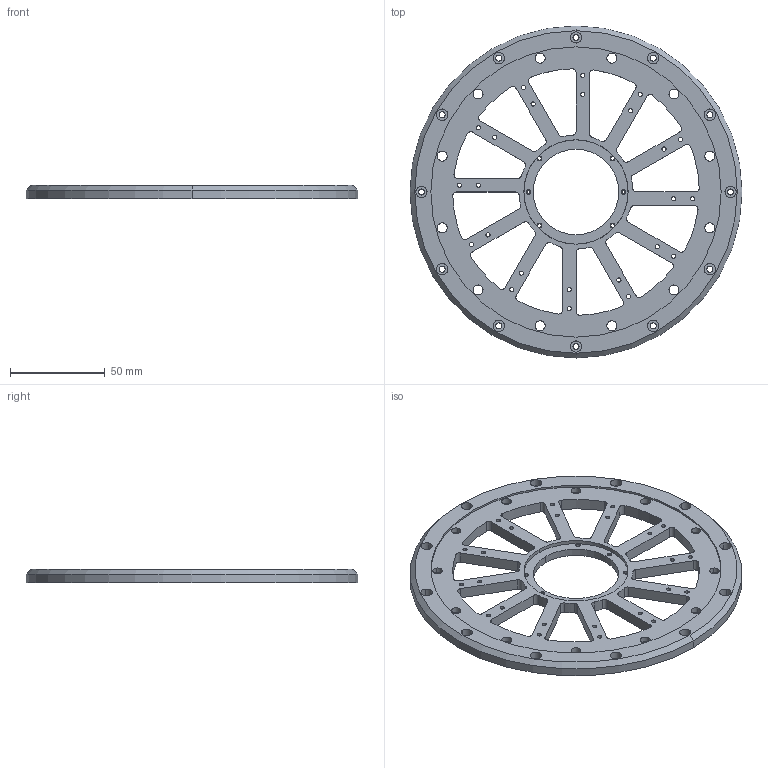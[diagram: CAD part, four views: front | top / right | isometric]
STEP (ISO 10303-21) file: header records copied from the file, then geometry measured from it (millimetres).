
FILE_DESCRIPTION(/* description */ ('VariCAD 2008 3.04 AP-203'),/* implementation_level */ '2;1');
FILE_NAME(/* name */ '0353-12-21',/* time_stamp */ '2009-04-25T09:59:11-06:00',/* author */ (''),/* organization */ (''),/* preprocessor_version */ 'ST-DEVELOPER v12',/* originating_system */ 'VariCAD 2008 3.04; kernel version (20080715)',/* authorisation */ '');
FILE_SCHEMA (('CONFIG_CONTROL_DESIGN'));
Length unit declared in the file: millimetre
Products named in the file (1): Part
Bounding box: 175 x 175 x 7 mm (x, y, z)
Volume: 87594.1 mm3; surface area: 45378.8 mm2
Topology: 7 solids, 7 shells, 440 faces, 1084 edges, 678 vertices
Faces by surface type: cylinder 308, cone 74, plane 58
Entity records: 13528 total; most frequent: DIRECTION 2610, CARTESIAN_POINT 2210, ORIENTED_EDGE 2168, EDGE_CURVE 1084, AXIS2_PLACEMENT_3D 1078, VERTEX_POINT 678, CIRCLE 630, EDGE_LOOP 606
